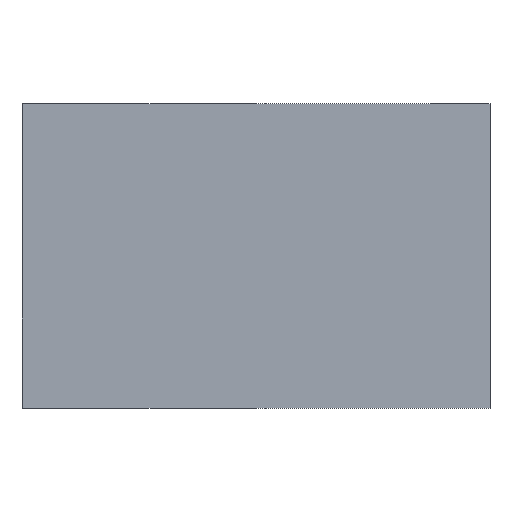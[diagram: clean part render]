
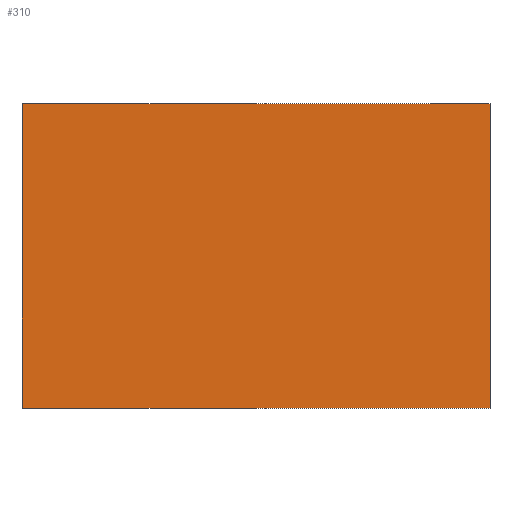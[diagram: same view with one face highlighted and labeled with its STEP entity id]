
A CAD part, top view. The second image highlights one B-rep face of the part: STEP entity #310.
In plain terms, the highlighted planar face has unit normal (0, 0, 1).
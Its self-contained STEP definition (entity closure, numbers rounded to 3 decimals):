
#1 = PLANE ( 'NONE',  #436 ) ;
#34 = VERTEX_POINT ( 'NONE', #279 ) ;
#52 = DIRECTION ( 'NONE',  ( -1., 0., 0. ) ) ;
#86 = VERTEX_POINT ( 'NONE', #213 ) ;
#88 = VECTOR ( 'NONE', #309, 1000. ) ;
#93 = CARTESIAN_POINT ( 'NONE',  ( -10., 11.1, 0. ) ) ;
#101 = CARTESIAN_POINT ( 'NONE',  ( 10., -1.9, 0. ) ) ;
#127 = VERTEX_POINT ( 'NONE', #529 ) ;
#157 = LINE ( 'NONE', #292, #408 ) ;
#179 = EDGE_LOOP ( 'NONE', ( #383, #493, #524, #569 ) ) ;
#185 = EDGE_CURVE ( 'NONE', #34, #127, #543, .T. ) ;
#213 = CARTESIAN_POINT ( 'NONE',  ( -10., -1.9, 0. ) ) ;
#238 = VECTOR ( 'NONE', #446, 1000. ) ;
#246 = VECTOR ( 'NONE', #52, 1000. ) ;
#259 = VERTEX_POINT ( 'NONE', #93 ) ;
#260 = DIRECTION ( 'NONE',  ( 0., -1., 0. ) ) ;
#279 = CARTESIAN_POINT ( 'NONE',  ( 10., 11.1, 0. ) ) ;
#292 = CARTESIAN_POINT ( 'NONE',  ( -10., 11.1, 0. ) ) ;
#304 = CARTESIAN_POINT ( 'NONE',  ( 10., 11.1, 0. ) ) ;
#306 = DIRECTION ( 'NONE',  ( 0., 1., 0. ) ) ;
#309 = DIRECTION ( 'NONE',  ( -1., 0., 0. ) ) ;
#310 = ADVANCED_FACE ( 'NONE', ( #410 ), #1, .F. ) ;
#315 = CARTESIAN_POINT ( 'NONE',  ( 10., 11.1, 0. ) ) ;
#323 = EDGE_CURVE ( 'NONE', #34, #259, #443, .T. ) ;
#329 = EDGE_CURVE ( 'NONE', #127, #86, #456, .T. ) ;
#383 = ORIENTED_EDGE ( 'NONE', *, *, #323, .T. ) ;
#408 = VECTOR ( 'NONE', #260, 1000. ) ;
#410 = FACE_OUTER_BOUND ( 'NONE', #179, .T. ) ;
#436 = AXIS2_PLACEMENT_3D ( 'NONE', #304, #487, #306 ) ;
#443 = LINE ( 'NONE', #539, #88 ) ;
#446 = DIRECTION ( 'NONE',  ( 0., -1., 0. ) ) ;
#456 = LINE ( 'NONE', #101, #246 ) ;
#473 = EDGE_CURVE ( 'NONE', #259, #86, #157, .T. ) ;
#487 = DIRECTION ( 'NONE',  ( 0., 0., -1. ) ) ;
#493 = ORIENTED_EDGE ( 'NONE', *, *, #473, .T. ) ;
#524 = ORIENTED_EDGE ( 'NONE', *, *, #329, .F. ) ;
#529 = CARTESIAN_POINT ( 'NONE',  ( 10., -1.9, 0. ) ) ;
#539 = CARTESIAN_POINT ( 'NONE',  ( 10., 11.1, 0. ) ) ;
#543 = LINE ( 'NONE', #315, #238 ) ;
#569 = ORIENTED_EDGE ( 'NONE', *, *, #185, .F. ) ;
